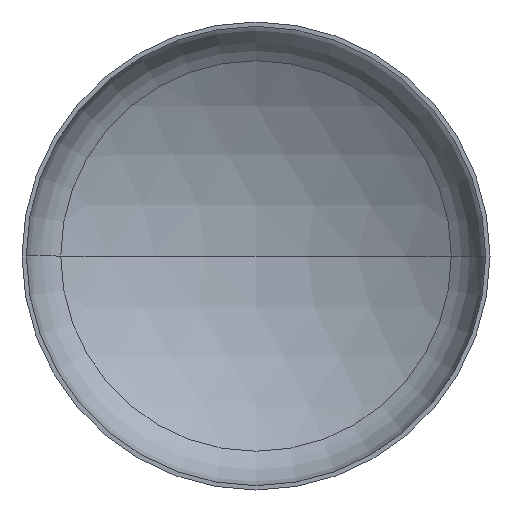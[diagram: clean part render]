
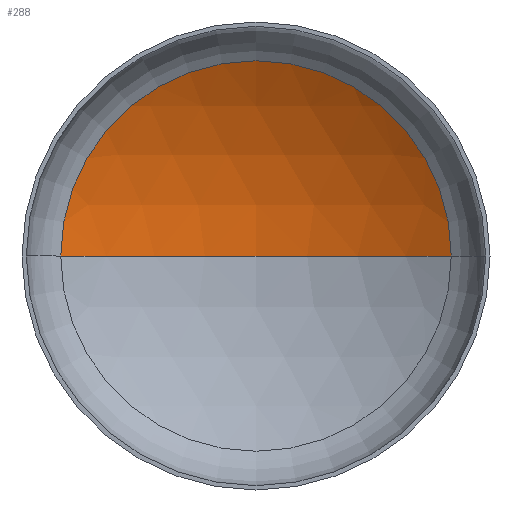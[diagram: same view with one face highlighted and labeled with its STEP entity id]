
A CAD part, front view. The second image highlights one B-rep face of the part: STEP entity #288.
In plain terms, the highlighted spherical face has radius 1120 mm.
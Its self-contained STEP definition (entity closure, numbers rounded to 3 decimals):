
#6 = AXIS2_PLACEMENT_3D ( 'NONE', #292, #254, #251 ) ;
#7 = AXIS2_PLACEMENT_3D ( 'NONE', #25, #212, #197 ) ;
#10 = EDGE_LOOP ( 'NONE', ( #381, #93, #53 ) ) ;
#21 = VERTEX_POINT ( 'NONE', #276 ) ;
#24 = AXIS2_PLACEMENT_3D ( 'NONE', #57, #298, #235 ) ;
#25 = CARTESIAN_POINT ( 'NONE',  ( 0., 223.443, 0. ) ) ;
#33 = AXIS2_PLACEMENT_3D ( 'NONE', #119, #130, #397 ) ;
#41 = VERTEX_POINT ( 'NONE', #270 ) ;
#53 = ORIENTED_EDGE ( 'NONE', *, *, #372, .T. ) ;
#57 = CARTESIAN_POINT ( 'NONE',  ( 0., -732.166, 0. ) ) ;
#93 = ORIENTED_EDGE ( 'NONE', *, *, #373, .T. ) ;
#119 = CARTESIAN_POINT ( 'NONE',  ( 0., -732.166, 0. ) ) ;
#130 = DIRECTION ( 'NONE',  ( 0., 0., -1. ) ) ;
#131 = SPHERICAL_SURFACE ( 'NONE', #33, 1120. ) ;
#144 = VERTEX_POINT ( 'NONE', #317 ) ;
#188 = CIRCLE ( 'NONE', #7, 584.133 ) ;
#197 = DIRECTION ( 'NONE',  ( 1., 0., 0. ) ) ;
#212 = DIRECTION ( 'NONE',  ( 0., -1., 0. ) ) ;
#235 = DIRECTION ( 'NONE',  ( 1., 0., 0. ) ) ;
#251 = DIRECTION ( 'NONE',  ( -1., 0., 0. ) ) ;
#254 = DIRECTION ( 'NONE',  ( 0., 0., -1. ) ) ;
#259 = CIRCLE ( 'NONE', #6, 1120. ) ;
#266 = CIRCLE ( 'NONE', #24, 1120. ) ;
#270 = CARTESIAN_POINT ( 'NONE',  ( -584.133, 223.443, 0. ) ) ;
#273 = FACE_OUTER_BOUND ( 'NONE', #10, .T. ) ;
#276 = CARTESIAN_POINT ( 'NONE',  ( 584.133, 223.443, 0. ) ) ;
#288 = ADVANCED_FACE ( 'NONE', ( #273 ), #131, .F. ) ;
#292 = CARTESIAN_POINT ( 'NONE',  ( 0., -732.166, 0. ) ) ;
#298 = DIRECTION ( 'NONE',  ( 0., 0., 1. ) ) ;
#317 = CARTESIAN_POINT ( 'NONE',  ( 0., 387.834, 0. ) ) ;
#348 = EDGE_CURVE ( 'NONE', #144, #41, #266, .T. ) ;
#372 = EDGE_CURVE ( 'NONE', #21, #41, #188, .T. ) ;
#373 = EDGE_CURVE ( 'NONE', #144, #21, #259, .T. ) ;
#381 = ORIENTED_EDGE ( 'NONE', *, *, #348, .F. ) ;
#397 = DIRECTION ( 'NONE',  ( -1., 0., 0. ) ) ;
